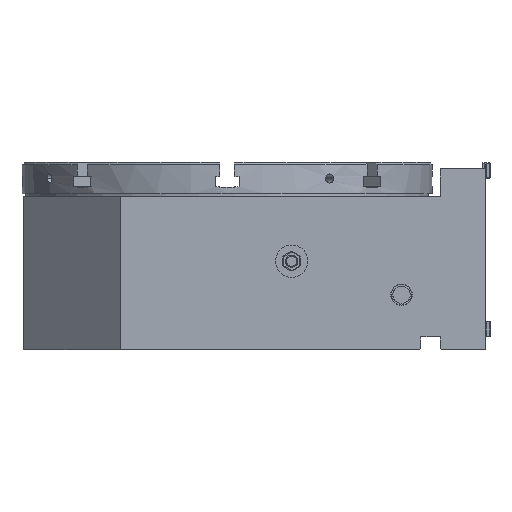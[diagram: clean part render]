
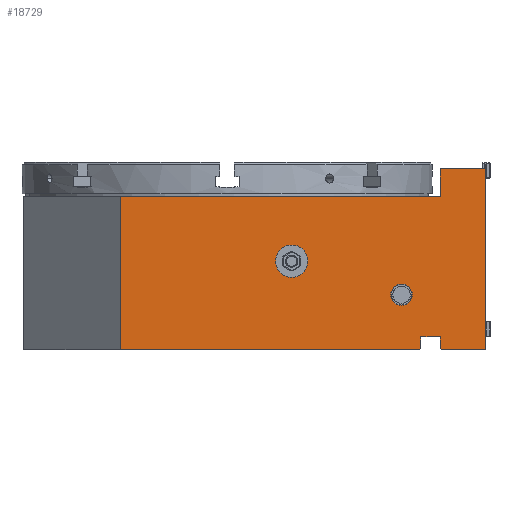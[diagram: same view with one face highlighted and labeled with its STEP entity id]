
A CAD part, front view. The second image highlights one B-rep face of the part: STEP entity #18729.
In plain terms, the highlighted planar face has unit normal (0, -1, 0).
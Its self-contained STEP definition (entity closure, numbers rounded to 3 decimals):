
#586 = VECTOR ( 'NONE', #11463, 1000. ) ;
#675 = CARTESIAN_POINT ( 'NONE',  ( 400., -320., -237. ) ) ;
#679 = DIRECTION ( 'NONE',  ( 1., 0., 0. ) ) ;
#949 = CARTESIAN_POINT ( 'NONE',  ( 270., -320., -152. ) ) ;
#1197 = CARTESIAN_POINT ( 'NONE',  ( 330., -320., -235.5 ) ) ;
#1382 = ORIENTED_EDGE ( 'NONE', *, *, #18611, .T. ) ;
#1404 = CARTESIAN_POINT ( 'NONE',  ( 330., -320., -237. ) ) ;
#1550 = LINE ( 'NONE', #10338, #3610 ) ;
#1743 = CARTESIAN_POINT ( 'NONE',  ( 298.5, -320., -237. ) ) ;
#1915 = EDGE_CURVE ( 'NONE', #19419, #14259, #5581, .T. ) ;
#2022 = DIRECTION ( 'NONE',  ( 0., -1., 0. ) ) ;
#2136 = ORIENTED_EDGE ( 'NONE', *, *, #23434, .F. ) ;
#2379 = CIRCLE ( 'NONE', #25195, 25. ) ;
#2576 = VERTEX_POINT ( 'NONE', #13810 ) ;
#2653 = ORIENTED_EDGE ( 'NONE', *, *, #21522, .T. ) ;
#2862 = VECTOR ( 'NONE', #11316, 1000. ) ;
#3361 = DIRECTION ( 'NONE',  ( 0., 0., 1. ) ) ;
#3610 = VECTOR ( 'NONE', #12256, 1000. ) ;
#3759 = ORIENTED_EDGE ( 'NONE', *, *, #17755, .T. ) ;
#3821 = PLANE ( 'NONE',  #12469 ) ;
#4198 = ORIENTED_EDGE ( 'NONE', *, *, #22581, .F. ) ;
#5019 = DIRECTION ( 'NONE',  ( 0., -1., 0. ) ) ;
#5330 = DIRECTION ( 'NONE',  ( 0., 0., -1. ) ) ;
#5488 = FACE_OUTER_BOUND ( 'NONE', #19100, .T. ) ;
#5500 = VECTOR ( 'NONE', #8765, 1000. ) ;
#5581 = LINE ( 'NONE', #11703, #586 ) ;
#5653 = ORIENTED_EDGE ( 'NONE', *, *, #19817, .T. ) ;
#5699 = VERTEX_POINT ( 'NONE', #8423 ) ;
#5763 = VERTEX_POINT ( 'NONE', #16097 ) ;
#5799 = VECTOR ( 'NONE', #18421, 1000. ) ;
#6543 = LINE ( 'NONE', #8830, #5799 ) ;
#6613 = LINE ( 'NONE', #11988, #11793 ) ;
#6643 = VERTEX_POINT ( 'NONE', #1743 ) ;
#6665 = DIRECTION ( 'NONE',  ( 0., 0., 1. ) ) ;
#6872 = VERTEX_POINT ( 'NONE', #1197 ) ;
#6974 = LINE ( 'NONE', #24451, #5500 ) ;
#6982 = CARTESIAN_POINT ( 'NONE',  ( 330., -320., -217. ) ) ;
#7330 = ORIENTED_EDGE ( 'NONE', *, *, #8875, .F. ) ;
#7513 = ORIENTED_EDGE ( 'NONE', *, *, #10045, .T. ) ;
#7839 = CARTESIAN_POINT ( 'NONE',  ( 83.25, -320., 11.25 ) ) ;
#7986 = ORIENTED_EDGE ( 'NONE', *, *, #23587, .T. ) ;
#8234 = ORIENTED_EDGE ( 'NONE', *, *, #8630, .T. ) ;
#8423 = CARTESIAN_POINT ( 'NONE',  ( 300., -320., -217. ) ) ;
#8630 = EDGE_CURVE ( 'NONE', #6643, #22563, #1550, .T. ) ;
#8688 = EDGE_CURVE ( 'NONE', #19680, #16443, #2379, .T. ) ;
#8765 = DIRECTION ( 'NONE',  ( 1., 0., 0. ) ) ;
#8830 = CARTESIAN_POINT ( 'NONE',  ( -165., -320., -237. ) ) ;
#8875 = EDGE_CURVE ( 'NONE', #23851, #11044, #14007, .T. ) ;
#9118 = VECTOR ( 'NONE', #6665, 1000. ) ;
#9397 = CIRCLE ( 'NONE', #17146, 25. ) ;
#9915 = ORIENTED_EDGE ( 'NONE', *, *, #15352, .F. ) ;
#9968 = DIRECTION ( 'NONE',  ( 0., 0., -1. ) ) ;
#10045 = EDGE_CURVE ( 'NONE', #6872, #5763, #19349, .T. ) ;
#10242 = VERTEX_POINT ( 'NONE', #14357 ) ;
#10338 = CARTESIAN_POINT ( 'NONE',  ( 66.75, -320., -468.75 ) ) ;
#10405 = VECTOR ( 'NONE', #18375, 1000. ) ;
#10493 = CARTESIAN_POINT ( 'NONE',  ( 400., -320., 43. ) ) ;
#10812 = CARTESIAN_POINT ( 'NONE',  ( 270., -320., -135.375 ) ) ;
#11044 = VERTEX_POINT ( 'NONE', #10812 ) ;
#11316 = DIRECTION ( 'NONE',  ( 1., 0., 0. ) ) ;
#11463 = DIRECTION ( 'NONE',  ( 1., 0., 0. ) ) ;
#11485 = ORIENTED_EDGE ( 'NONE', *, *, #16608, .T. ) ;
#11564 = DIRECTION ( 'NONE',  ( 0.707, 0., -0.707 ) ) ;
#11696 = LINE ( 'NONE', #17317, #13859 ) ;
#11703 = CARTESIAN_POINT ( 'NONE',  ( -165., -320., 0. ) ) ;
#11793 = VECTOR ( 'NONE', #18220, 1000. ) ;
#11910 = DIRECTION ( 'NONE',  ( 0., -1., 0. ) ) ;
#11988 = CARTESIAN_POINT ( 'NONE',  ( -165., -320., -237. ) ) ;
#12017 = CARTESIAN_POINT ( 'NONE',  ( 100., -320., -100. ) ) ;
#12256 = DIRECTION ( 'NONE',  ( 0.707, 0., 0.707 ) ) ;
#12449 = CARTESIAN_POINT ( 'NONE',  ( -165., -320., 0. ) ) ;
#12469 = AXIS2_PLACEMENT_3D ( 'NONE', #21416, #2022, #13268 ) ;
#12956 = EDGE_CURVE ( 'NONE', #10242, #13901, #14709, .T. ) ;
#13053 = CARTESIAN_POINT ( 'NONE',  ( 300., -320., -237. ) ) ;
#13268 = DIRECTION ( 'NONE',  ( 0., 0., -1. ) ) ;
#13336 = CARTESIAN_POINT ( 'NONE',  ( 400., -320., 43. ) ) ;
#13575 = CARTESIAN_POINT ( 'NONE',  ( 100., -320., -75. ) ) ;
#13603 = CARTESIAN_POINT ( 'NONE',  ( 330., -320., -217. ) ) ;
#13810 = CARTESIAN_POINT ( 'NONE',  ( -165., -320., -237. ) ) ;
#13859 = VECTOR ( 'NONE', #5330, 1000. ) ;
#13901 = VERTEX_POINT ( 'NONE', #13336 ) ;
#14007 = CIRCLE ( 'NONE', #14801, 16.624 ) ;
#14259 = VERTEX_POINT ( 'NONE', #19804 ) ;
#14357 = CARTESIAN_POINT ( 'NONE',  ( 330., -320., 43. ) ) ;
#14709 = LINE ( 'NONE', #10493, #16025 ) ;
#14801 = AXIS2_PLACEMENT_3D ( 'NONE', #24870, #22977, #15412 ) ;
#14849 = DIRECTION ( 'NONE',  ( 0., 0., -1. ) ) ;
#15352 = EDGE_CURVE ( 'NONE', #16443, #19680, #9397, .T. ) ;
#15412 = DIRECTION ( 'NONE',  ( 0., 0., -1. ) ) ;
#16025 = VECTOR ( 'NONE', #679, 1000. ) ;
#16097 = CARTESIAN_POINT ( 'NONE',  ( 331.5, -320., -237. ) ) ;
#16419 = ORIENTED_EDGE ( 'NONE', *, *, #22820, .T. ) ;
#16443 = VERTEX_POINT ( 'NONE', #19323 ) ;
#16608 = EDGE_CURVE ( 'NONE', #19281, #13901, #19929, .T. ) ;
#17078 = FACE_BOUND ( 'NONE', #19951, .T. ) ;
#17146 = AXIS2_PLACEMENT_3D ( 'NONE', #17270, #11910, #21462 ) ;
#17154 = VECTOR ( 'NONE', #3361, 1000. ) ;
#17270 = CARTESIAN_POINT ( 'NONE',  ( 100., -320., -100. ) ) ;
#17317 = CARTESIAN_POINT ( 'NONE',  ( 330., -320., 43. ) ) ;
#17555 = CARTESIAN_POINT ( 'NONE',  ( 400., -320., -237. ) ) ;
#17755 = EDGE_CURVE ( 'NONE', #2576, #6643, #6974, .T. ) ;
#18220 = DIRECTION ( 'NONE',  ( 0., 0., 1. ) ) ;
#18375 = DIRECTION ( 'NONE',  ( 0., 0., -1. ) ) ;
#18421 = DIRECTION ( 'NONE',  ( 1., 0., 0. ) ) ;
#18611 = EDGE_CURVE ( 'NONE', #18946, #6872, #22457, .T. ) ;
#18727 = ORIENTED_EDGE ( 'NONE', *, *, #8688, .F. ) ;
#18729 = ADVANCED_FACE ( 'NONE', ( #17078, #22979, #5488 ), #3821, .T. ) ;
#18751 = CARTESIAN_POINT ( 'NONE',  ( 270., -320., -168.624 ) ) ;
#18754 = CIRCLE ( 'NONE', #19210, 16.624 ) ;
#18946 = VERTEX_POINT ( 'NONE', #6982 ) ;
#18972 = LINE ( 'NONE', #13603, #2862 ) ;
#19100 = EDGE_LOOP ( 'NONE', ( #1382, #7513, #5653, #11485, #23512, #16419, #25221, #4198, #3759, #8234, #7986, #2653 ) ) ;
#19165 = EDGE_LOOP ( 'NONE', ( #7330, #2136 ) ) ;
#19210 = AXIS2_PLACEMENT_3D ( 'NONE', #949, #5019, #14849 ) ;
#19281 = VERTEX_POINT ( 'NONE', #17555 ) ;
#19323 = CARTESIAN_POINT ( 'NONE',  ( 100., -320., -125. ) ) ;
#19349 = LINE ( 'NONE', #7839, #22406 ) ;
#19419 = VERTEX_POINT ( 'NONE', #12449 ) ;
#19637 = CARTESIAN_POINT ( 'NONE',  ( 300., -320., -235.5 ) ) ;
#19680 = VERTEX_POINT ( 'NONE', #13575 ) ;
#19804 = CARTESIAN_POINT ( 'NONE',  ( 330., -320., 0. ) ) ;
#19817 = EDGE_CURVE ( 'NONE', #5763, #19281, #6543, .T. ) ;
#19929 = LINE ( 'NONE', #675, #9118 ) ;
#19951 = EDGE_LOOP ( 'NONE', ( #9915, #18727 ) ) ;
#21416 = CARTESIAN_POINT ( 'NONE',  ( -165., -320., -237. ) ) ;
#21462 = DIRECTION ( 'NONE',  ( 0., 0., -1. ) ) ;
#21522 = EDGE_CURVE ( 'NONE', #5699, #18946, #18972, .T. ) ;
#21706 = DIRECTION ( 'NONE',  ( 0., -1., 0. ) ) ;
#22406 = VECTOR ( 'NONE', #11564, 1000. ) ;
#22457 = LINE ( 'NONE', #1404, #10405 ) ;
#22563 = VERTEX_POINT ( 'NONE', #19637 ) ;
#22581 = EDGE_CURVE ( 'NONE', #2576, #19419, #6613, .T. ) ;
#22753 = LINE ( 'NONE', #13053, #17154 ) ;
#22820 = EDGE_CURVE ( 'NONE', #10242, #14259, #11696, .T. ) ;
#22977 = DIRECTION ( 'NONE',  ( 0., -1., 0. ) ) ;
#22979 = FACE_BOUND ( 'NONE', #19165, .T. ) ;
#23434 = EDGE_CURVE ( 'NONE', #11044, #23851, #18754, .T. ) ;
#23512 = ORIENTED_EDGE ( 'NONE', *, *, #12956, .F. ) ;
#23587 = EDGE_CURVE ( 'NONE', #22563, #5699, #22753, .T. ) ;
#23851 = VERTEX_POINT ( 'NONE', #18751 ) ;
#24451 = CARTESIAN_POINT ( 'NONE',  ( -165., -320., -237. ) ) ;
#24870 = CARTESIAN_POINT ( 'NONE',  ( 270., -320., -152. ) ) ;
#25195 = AXIS2_PLACEMENT_3D ( 'NONE', #12017, #21706, #9968 ) ;
#25221 = ORIENTED_EDGE ( 'NONE', *, *, #1915, .F. ) ;
